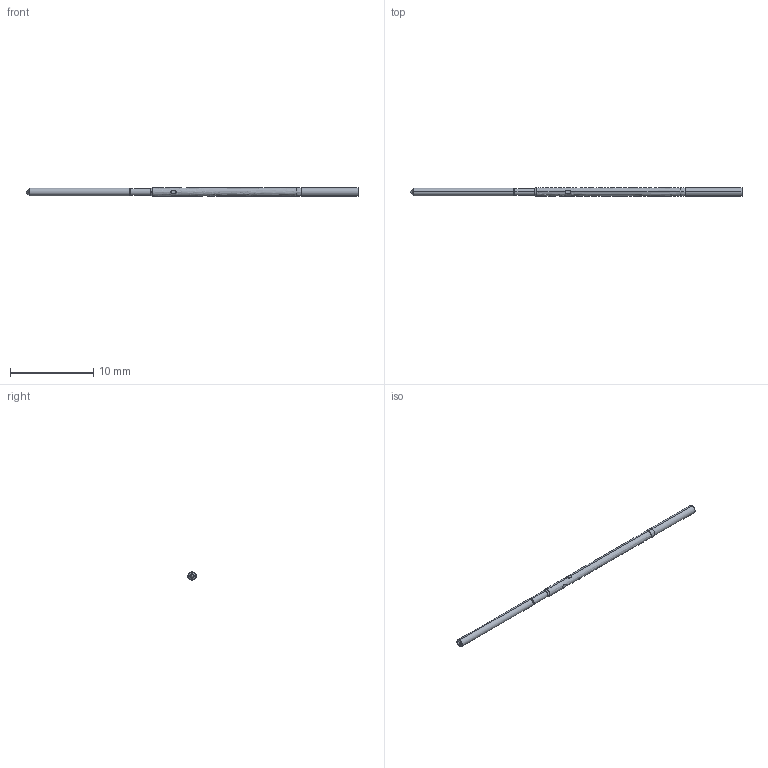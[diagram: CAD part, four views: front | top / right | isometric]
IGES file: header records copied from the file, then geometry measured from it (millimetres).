
Start section: SolidWorks IGES file using analytic representation for surfaces
Global section: file name: Z:\probe solid model mockups\Solidworks models\DER -050 IGS files\DER-050T Full.IGS; native system: SolidWorks 2006 by SolidWorks Corporation; preprocessor: SolidWorks 2006 by SolidWorks Corporation; author: tsakatani; date: 071218.084504; units: inch
Bounding box: 39.77 x 1.07 x 1.08 mm (x, y, z)
Surface area: 177.4 mm2 (no closed solid volume)
Topology: 0 solids, 0 shells, 44 faces, 394 edges, 394 vertices
Faces by surface type: revolution 34, bspline 10
